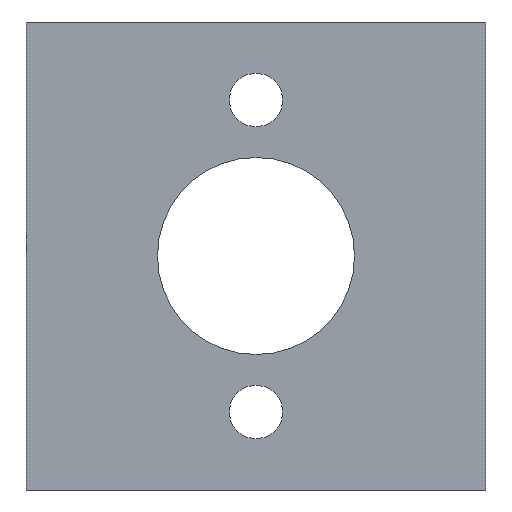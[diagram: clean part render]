
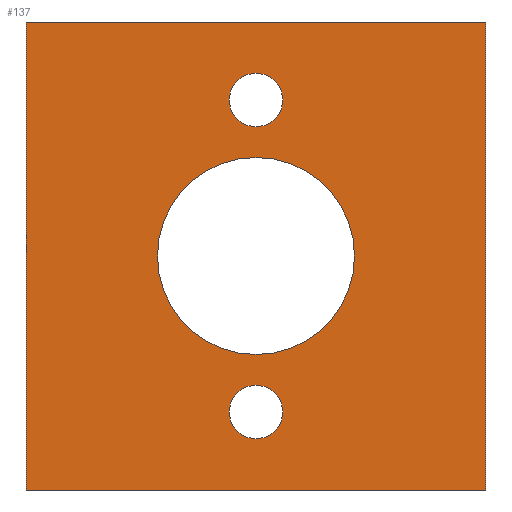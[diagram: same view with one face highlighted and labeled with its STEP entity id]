
A CAD part, front view. The second image highlights one B-rep face of the part: STEP entity #137.
In plain terms, the highlighted planar face has unit normal (0, -1, 0).
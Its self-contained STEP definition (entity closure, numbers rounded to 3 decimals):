
#21 = EDGE_CURVE('',#22,#24,#26,.T.);
#22 = VERTEX_POINT('',#23);
#23 = CARTESIAN_POINT('',(150.5,99.,76.));
#24 = VERTEX_POINT('',#25);
#25 = CARTESIAN_POINT('',(150.5,99.,133.));
#26 = SURFACE_CURVE('',#27,(#31,#43),.PCURVE_S1.);
#27 = LINE('',#28,#29);
#28 = CARTESIAN_POINT('',(150.5,99.,76.));
#29 = VECTOR('',#30,1.);
#30 = DIRECTION('',(0.,0.,1.));
#31 = PCURVE('',#32,#37);
#32 = PLANE('',#33);
#33 = AXIS2_PLACEMENT_3D('',#34,#35,#36);
#34 = CARTESIAN_POINT('',(150.5,99.,76.));
#35 = DIRECTION('',(1.,0.,-0.));
#36 = DIRECTION('',(0.,0.,1.));
#37 = DEFINITIONAL_REPRESENTATION('',(#38),#42);
#38 = LINE('',#39,#40);
#39 = CARTESIAN_POINT('',(0.,0.));
#40 = VECTOR('',#41,1.);
#41 = DIRECTION('',(1.,0.));
#42 = ( GEOMETRIC_REPRESENTATION_CONTEXT(2) 
PARAMETRIC_REPRESENTATION_CONTEXT() REPRESENTATION_CONTEXT('2D SPACE',''
  ) );
#43 = PCURVE('',#44,#49);
#44 = PLANE('',#45);
#45 = AXIS2_PLACEMENT_3D('',#46,#47,#48);
#46 = CARTESIAN_POINT('',(150.5,99.,76.));
#47 = DIRECTION('',(-0.,1.,0.));
#48 = DIRECTION('',(0.,0.,1.));
#49 = DEFINITIONAL_REPRESENTATION('',(#50),#54);
#50 = LINE('',#51,#52);
#51 = CARTESIAN_POINT('',(0.,0.));
#52 = VECTOR('',#53,1.);
#53 = DIRECTION('',(1.,0.));
#54 = ( GEOMETRIC_REPRESENTATION_CONTEXT(2) 
PARAMETRIC_REPRESENTATION_CONTEXT() REPRESENTATION_CONTEXT('2D SPACE',''
  ) );
#72 = PLANE('',#73);
#73 = AXIS2_PLACEMENT_3D('',#74,#75,#76);
#74 = CARTESIAN_POINT('',(150.5,99.,76.));
#75 = DIRECTION('',(0.,0.,1.));
#76 = DIRECTION('',(1.,0.,-0.));
#126 = PLANE('',#127);
#127 = AXIS2_PLACEMENT_3D('',#128,#129,#130);
#128 = CARTESIAN_POINT('',(150.5,99.,133.));
#129 = DIRECTION('',(0.,0.,1.));
#130 = DIRECTION('',(1.,0.,-0.));
#137 = ADVANCED_FACE('',(#138,#213,#244,#275),#44,.F.);
#138 = FACE_BOUND('',#139,.F.);
#139 = EDGE_LOOP('',(#140,#163,#164,#187));
#140 = ORIENTED_EDGE('',*,*,#141,.F.);
#141 = EDGE_CURVE('',#22,#142,#144,.T.);
#142 = VERTEX_POINT('',#143);
#143 = CARTESIAN_POINT('',(206.5,99.,76.));
#144 = SURFACE_CURVE('',#145,(#149,#156),.PCURVE_S1.);
#145 = LINE('',#146,#147);
#146 = CARTESIAN_POINT('',(150.5,99.,76.));
#147 = VECTOR('',#148,1.);
#148 = DIRECTION('',(1.,0.,-0.));
#149 = PCURVE('',#44,#150);
#150 = DEFINITIONAL_REPRESENTATION('',(#151),#155);
#151 = LINE('',#152,#153);
#152 = CARTESIAN_POINT('',(0.,0.));
#153 = VECTOR('',#154,1.);
#154 = DIRECTION('',(0.,1.));
#155 = ( GEOMETRIC_REPRESENTATION_CONTEXT(2) 
PARAMETRIC_REPRESENTATION_CONTEXT() REPRESENTATION_CONTEXT('2D SPACE',''
  ) );
#156 = PCURVE('',#72,#157);
#157 = DEFINITIONAL_REPRESENTATION('',(#158),#162);
#158 = LINE('',#159,#160);
#159 = CARTESIAN_POINT('',(0.,0.));
#160 = VECTOR('',#161,1.);
#161 = DIRECTION('',(1.,0.));
#162 = ( GEOMETRIC_REPRESENTATION_CONTEXT(2) 
PARAMETRIC_REPRESENTATION_CONTEXT() REPRESENTATION_CONTEXT('2D SPACE',''
  ) );
#163 = ORIENTED_EDGE('',*,*,#21,.T.);
#164 = ORIENTED_EDGE('',*,*,#165,.T.);
#165 = EDGE_CURVE('',#24,#166,#168,.T.);
#166 = VERTEX_POINT('',#167);
#167 = CARTESIAN_POINT('',(206.5,99.,133.));
#168 = SURFACE_CURVE('',#169,(#173,#180),.PCURVE_S1.);
#169 = LINE('',#170,#171);
#170 = CARTESIAN_POINT('',(150.5,99.,133.));
#171 = VECTOR('',#172,1.);
#172 = DIRECTION('',(1.,0.,-0.));
#173 = PCURVE('',#44,#174);
#174 = DEFINITIONAL_REPRESENTATION('',(#175),#179);
#175 = LINE('',#176,#177);
#176 = CARTESIAN_POINT('',(57.,0.));
#177 = VECTOR('',#178,1.);
#178 = DIRECTION('',(0.,1.));
#179 = ( GEOMETRIC_REPRESENTATION_CONTEXT(2) 
PARAMETRIC_REPRESENTATION_CONTEXT() REPRESENTATION_CONTEXT('2D SPACE',''
  ) );
#180 = PCURVE('',#126,#181);
#181 = DEFINITIONAL_REPRESENTATION('',(#182),#186);
#182 = LINE('',#183,#184);
#183 = CARTESIAN_POINT('',(0.,0.));
#184 = VECTOR('',#185,1.);
#185 = DIRECTION('',(1.,0.));
#186 = ( GEOMETRIC_REPRESENTATION_CONTEXT(2) 
PARAMETRIC_REPRESENTATION_CONTEXT() REPRESENTATION_CONTEXT('2D SPACE',''
  ) );
#187 = ORIENTED_EDGE('',*,*,#188,.F.);
#188 = EDGE_CURVE('',#142,#166,#189,.T.);
#189 = SURFACE_CURVE('',#190,(#194,#201),.PCURVE_S1.);
#190 = LINE('',#191,#192);
#191 = CARTESIAN_POINT('',(206.5,99.,76.));
#192 = VECTOR('',#193,1.);
#193 = DIRECTION('',(0.,0.,1.));
#194 = PCURVE('',#44,#195);
#195 = DEFINITIONAL_REPRESENTATION('',(#196),#200);
#196 = LINE('',#197,#198);
#197 = CARTESIAN_POINT('',(0.,56.));
#198 = VECTOR('',#199,1.);
#199 = DIRECTION('',(1.,0.));
#200 = ( GEOMETRIC_REPRESENTATION_CONTEXT(2) 
PARAMETRIC_REPRESENTATION_CONTEXT() REPRESENTATION_CONTEXT('2D SPACE',''
  ) );
#201 = PCURVE('',#202,#207);
#202 = PLANE('',#203);
#203 = AXIS2_PLACEMENT_3D('',#204,#205,#206);
#204 = CARTESIAN_POINT('',(206.5,99.,76.));
#205 = DIRECTION('',(1.,0.,-0.));
#206 = DIRECTION('',(0.,0.,1.));
#207 = DEFINITIONAL_REPRESENTATION('',(#208),#212);
#208 = LINE('',#209,#210);
#209 = CARTESIAN_POINT('',(0.,0.));
#210 = VECTOR('',#211,1.);
#211 = DIRECTION('',(1.,0.));
#212 = ( GEOMETRIC_REPRESENTATION_CONTEXT(2) 
PARAMETRIC_REPRESENTATION_CONTEXT() REPRESENTATION_CONTEXT('2D SPACE',''
  ) );
#213 = FACE_BOUND('',#214,.F.);
#214 = EDGE_LOOP('',(#215));
#215 = ORIENTED_EDGE('',*,*,#216,.F.);
#216 = EDGE_CURVE('',#217,#217,#219,.T.);
#217 = VERTEX_POINT('',#218);
#218 = CARTESIAN_POINT('',(178.5,99.,88.75));
#219 = SURFACE_CURVE('',#220,(#225,#232),.PCURVE_S1.);
#220 = CIRCLE('',#221,3.25);
#221 = AXIS2_PLACEMENT_3D('',#222,#223,#224);
#222 = CARTESIAN_POINT('',(178.5,99.,85.5));
#223 = DIRECTION('',(0.,1.,0.));
#224 = DIRECTION('',(0.,-0.,1.));
#225 = PCURVE('',#44,#226);
#226 = DEFINITIONAL_REPRESENTATION('',(#227),#231);
#227 = CIRCLE('',#228,3.25);
#228 = AXIS2_PLACEMENT_2D('',#229,#230);
#229 = CARTESIAN_POINT('',(9.5,28.));
#230 = DIRECTION('',(1.,0.));
#231 = ( GEOMETRIC_REPRESENTATION_CONTEXT(2) 
PARAMETRIC_REPRESENTATION_CONTEXT() REPRESENTATION_CONTEXT('2D SPACE',''
  ) );
#232 = PCURVE('',#233,#238);
#233 = CYLINDRICAL_SURFACE('',#234,3.25);
#234 = AXIS2_PLACEMENT_3D('',#235,#236,#237);
#235 = CARTESIAN_POINT('',(178.5,98.89,85.5));
#236 = DIRECTION('',(0.,1.,0.));
#237 = DIRECTION('',(0.,-0.,1.));
#238 = DEFINITIONAL_REPRESENTATION('',(#239),#243);
#239 = LINE('',#240,#241);
#240 = CARTESIAN_POINT('',(0.,0.11));
#241 = VECTOR('',#242,1.);
#242 = DIRECTION('',(1.,0.));
#243 = ( GEOMETRIC_REPRESENTATION_CONTEXT(2) 
PARAMETRIC_REPRESENTATION_CONTEXT() REPRESENTATION_CONTEXT('2D SPACE',''
  ) );
#244 = FACE_BOUND('',#245,.F.);
#245 = EDGE_LOOP('',(#246));
#246 = ORIENTED_EDGE('',*,*,#247,.F.);
#247 = EDGE_CURVE('',#248,#248,#250,.T.);
#248 = VERTEX_POINT('',#249);
#249 = CARTESIAN_POINT('',(178.5,99.,116.5));
#250 = SURFACE_CURVE('',#251,(#256,#263),.PCURVE_S1.);
#251 = CIRCLE('',#252,12.);
#252 = AXIS2_PLACEMENT_3D('',#253,#254,#255);
#253 = CARTESIAN_POINT('',(178.5,99.,104.5));
#254 = DIRECTION('',(0.,1.,0.));
#255 = DIRECTION('',(0.,-0.,1.));
#256 = PCURVE('',#44,#257);
#257 = DEFINITIONAL_REPRESENTATION('',(#258),#262);
#258 = CIRCLE('',#259,12.);
#259 = AXIS2_PLACEMENT_2D('',#260,#261);
#260 = CARTESIAN_POINT('',(28.5,28.));
#261 = DIRECTION('',(1.,0.));
#262 = ( GEOMETRIC_REPRESENTATION_CONTEXT(2) 
PARAMETRIC_REPRESENTATION_CONTEXT() REPRESENTATION_CONTEXT('2D SPACE',''
  ) );
#263 = PCURVE('',#264,#269);
#264 = CYLINDRICAL_SURFACE('',#265,12.);
#265 = AXIS2_PLACEMENT_3D('',#266,#267,#268);
#266 = CARTESIAN_POINT('',(178.5,98.89,104.5));
#267 = DIRECTION('',(0.,1.,0.));
#268 = DIRECTION('',(0.,-0.,1.));
#269 = DEFINITIONAL_REPRESENTATION('',(#270),#274);
#270 = LINE('',#271,#272);
#271 = CARTESIAN_POINT('',(0.,0.11));
#272 = VECTOR('',#273,1.);
#273 = DIRECTION('',(1.,0.));
#274 = ( GEOMETRIC_REPRESENTATION_CONTEXT(2) 
PARAMETRIC_REPRESENTATION_CONTEXT() REPRESENTATION_CONTEXT('2D SPACE',''
  ) );
#275 = FACE_BOUND('',#276,.F.);
#276 = EDGE_LOOP('',(#277));
#277 = ORIENTED_EDGE('',*,*,#278,.F.);
#278 = EDGE_CURVE('',#279,#279,#281,.T.);
#279 = VERTEX_POINT('',#280);
#280 = CARTESIAN_POINT('',(178.5,99.,126.75));
#281 = SURFACE_CURVE('',#282,(#287,#294),.PCURVE_S1.);
#282 = CIRCLE('',#283,3.25);
#283 = AXIS2_PLACEMENT_3D('',#284,#285,#286);
#284 = CARTESIAN_POINT('',(178.5,99.,123.5));
#285 = DIRECTION('',(0.,1.,0.));
#286 = DIRECTION('',(0.,-0.,1.));
#287 = PCURVE('',#44,#288);
#288 = DEFINITIONAL_REPRESENTATION('',(#289),#293);
#289 = CIRCLE('',#290,3.25);
#290 = AXIS2_PLACEMENT_2D('',#291,#292);
#291 = CARTESIAN_POINT('',(47.5,28.));
#292 = DIRECTION('',(1.,0.));
#293 = ( GEOMETRIC_REPRESENTATION_CONTEXT(2) 
PARAMETRIC_REPRESENTATION_CONTEXT() REPRESENTATION_CONTEXT('2D SPACE',''
  ) );
#294 = PCURVE('',#295,#300);
#295 = CYLINDRICAL_SURFACE('',#296,3.25);
#296 = AXIS2_PLACEMENT_3D('',#297,#298,#299);
#297 = CARTESIAN_POINT('',(178.5,98.89,123.5));
#298 = DIRECTION('',(0.,1.,0.));
#299 = DIRECTION('',(0.,-0.,1.));
#300 = DEFINITIONAL_REPRESENTATION('',(#301),#305);
#301 = LINE('',#302,#303);
#302 = CARTESIAN_POINT('',(0.,0.11));
#303 = VECTOR('',#304,1.);
#304 = DIRECTION('',(1.,0.));
#305 = ( GEOMETRIC_REPRESENTATION_CONTEXT(2) 
PARAMETRIC_REPRESENTATION_CONTEXT() REPRESENTATION_CONTEXT('2D SPACE',''
  ) );
